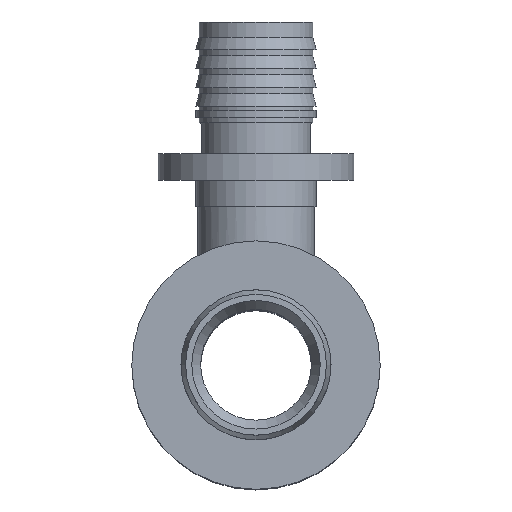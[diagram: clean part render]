
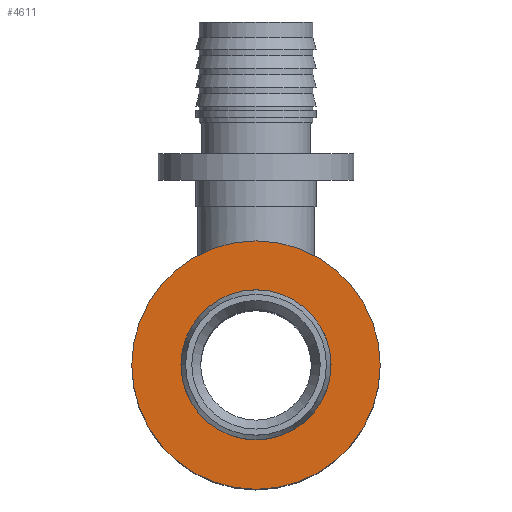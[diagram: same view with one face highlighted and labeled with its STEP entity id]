
A CAD part, top view. The second image highlights one B-rep face of the part: STEP entity #4611.
In plain terms, the highlighted planar face has unit normal (0, 0, 1).
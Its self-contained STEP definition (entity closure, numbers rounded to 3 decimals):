
#118=FACE_BOUND('',#1163,.T.);
#275=CIRCLE('',#4922,9.313);
#276=CIRCLE('',#4923,9.313);
#277=CIRCLE('',#4925,16.5);
#278=CIRCLE('',#4926,16.5);
#880=FACE_OUTER_BOUND('',#1162,.T.);
#1162=EDGE_LOOP('',(#4111,#4112));
#1163=EDGE_LOOP('',(#4113,#4114));
#2154=VERTEX_POINT('',#10325);
#2155=VERTEX_POINT('',#10326);
#2156=VERTEX_POINT('',#10331);
#2157=VERTEX_POINT('',#10332);
#2825=EDGE_CURVE('',#2154,#2155,#275,.T.);
#2826=EDGE_CURVE('',#2155,#2154,#276,.T.);
#2828=EDGE_CURVE('',#2156,#2157,#277,.T.);
#2829=EDGE_CURVE('',#2157,#2156,#278,.T.);
#4111=ORIENTED_EDGE('',*,*,#2828,.F.);
#4112=ORIENTED_EDGE('',*,*,#2829,.F.);
#4113=ORIENTED_EDGE('',*,*,#2825,.T.);
#4114=ORIENTED_EDGE('',*,*,#2826,.T.);
#4383=PLANE('',#4924);
#4611=ADVANCED_FACE('',(#880,#118),#4383,.T.);
#4922=AXIS2_PLACEMENT_3D('',#10327,#5791,#5792);
#4923=AXIS2_PLACEMENT_3D('',#10328,#5793,#5794);
#4924=AXIS2_PLACEMENT_3D('',#10330,#5796,#5797);
#4925=AXIS2_PLACEMENT_3D('',#10333,#5798,#5799);
#4926=AXIS2_PLACEMENT_3D('',#10334,#5800,#5801);
#5791=DIRECTION('center_axis',(0.,0.,-1.));
#5792=DIRECTION('ref_axis',(1.,0.,0.));
#5793=DIRECTION('center_axis',(0.,0.,-1.));
#5794=DIRECTION('ref_axis',(1.,0.,0.));
#5796=DIRECTION('center_axis',(0.,0.,1.));
#5797=DIRECTION('ref_axis',(1.,0.,0.));
#5798=DIRECTION('center_axis',(0.,0.,-1.));
#5799=DIRECTION('ref_axis',(1.,0.,0.));
#5800=DIRECTION('center_axis',(0.,0.,-1.));
#5801=DIRECTION('ref_axis',(1.,0.,0.));
#10325=CARTESIAN_POINT('',(0.,-9.313,75.5));
#10326=CARTESIAN_POINT('',(0.,9.313,75.5));
#10327=CARTESIAN_POINT('Origin',(0.,0.,75.5));
#10328=CARTESIAN_POINT('Origin',(0.,0.,75.5));
#10330=CARTESIAN_POINT('Origin',(0.,-16.5,75.5));
#10331=CARTESIAN_POINT('',(0.,-16.5,75.5));
#10332=CARTESIAN_POINT('',(0.,16.5,75.5));
#10333=CARTESIAN_POINT('Origin',(0.,0.,75.5));
#10334=CARTESIAN_POINT('Origin',(0.,0.,75.5));
